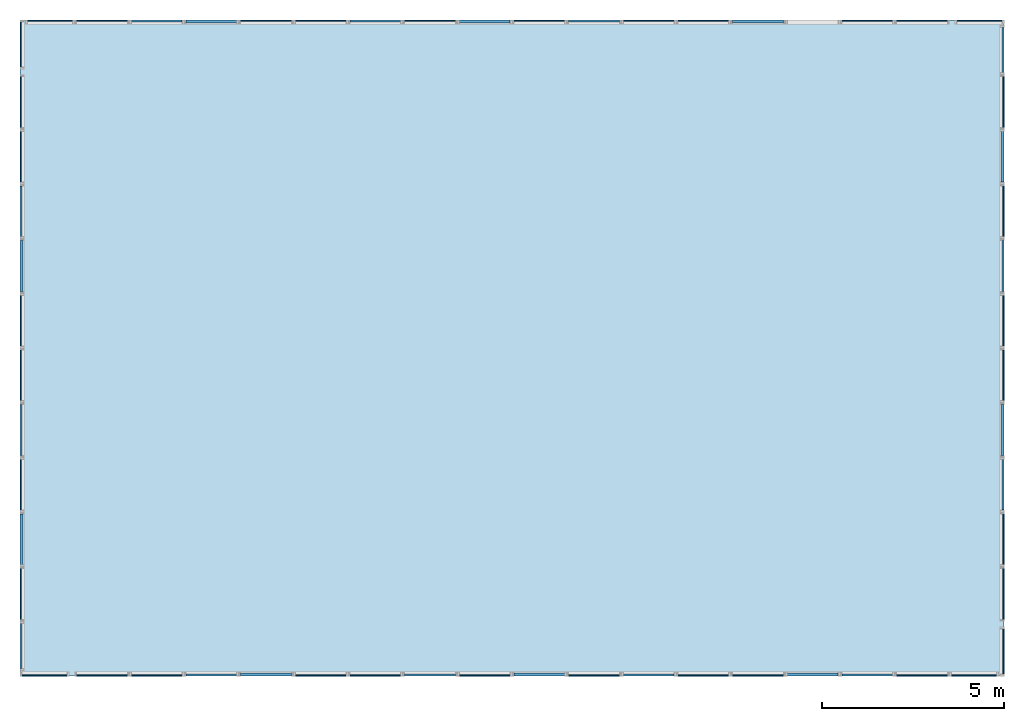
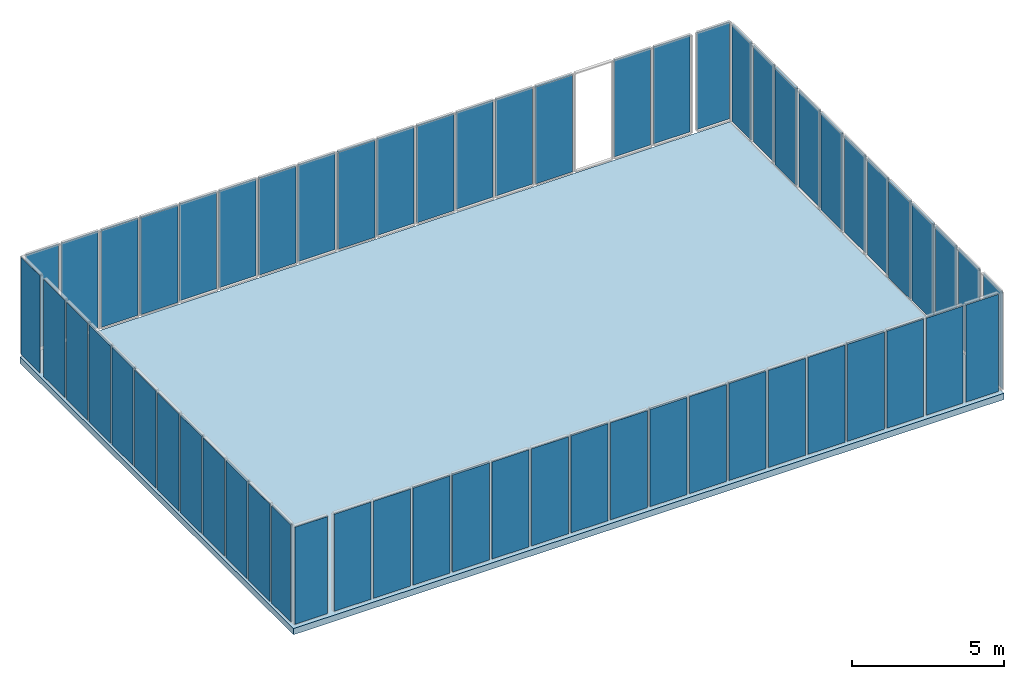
# One storey, part 4 of 4: 59 plates, 1 slab.
"""IFC4 building model written with IfcOpenShell, lengths in metres."""

import ifcopenshell
import ifcopenshell.guid

model = None  # the IFC model being written
_history = None  # IfcOwnerHistory: only IFC2X3 demands one
_inside = {}  # id of a spatial element -> (the spatial element, [elements in it])
_under = {}  # id of a project, library or spatial element -> (it, [spatial elements below it])
_declared = {}  # id of a project -> (the project, [libraries it declares])
_typed = {}  # id of a type object -> (the type object, [elements of that type])
_made_of = {}  # id of a material, layer set ... -> (it, [elements and type objects made of it])


def new_model(schema):
    """Start an empty IFC model of exactly this schema.

    Asked for "IFC4X3", IfcOpenShell would pick the latest addendum, in which some entities
    have other attributes; the version numbers below select the first issue.
    IFC2X3 requires an IfcOwnerHistory on every rooted entity: one is made here for all.
    """
    global model, _history
    if schema == "IFC4X3":
        model = ifcopenshell.file(schema_version=(4, 3, 0, 0))
    else:
        model = ifcopenshell.file(schema=schema)
    _inside.clear()
    _under.clear()
    _declared.clear()
    _typed.clear()
    _made_of.clear()
    _history = None
    if model.schema == "IFC2X3":
        org = make("IfcOrganization", Name="unknown")
        user = make(
            "IfcPersonAndOrganization",
            ThePerson=make("IfcPerson", FamilyName="unknown"),
            TheOrganization=org,
        )
        app = make(
            "IfcApplication",
            ApplicationDeveloper=org,
            Version="unknown",
            ApplicationFullName="unknown",
            ApplicationIdentifier="unknown",
        )
        _history = make(
            "IfcOwnerHistory",
            OwningUser=user,
            OwningApplication=app,
            ChangeAction="ADDED",
            CreationDate=0,
        )
    return model


def make(cls, **values):
    """One entity of the class cls with the attributes given. An attribute that is None is left unset."""
    return model.create_entity(
        cls, **{name: value for name, value in values.items() if value is not None}
    )


def rooted(cls, **values):
    """An entity with a GlobalId (a new one), such as an element, a storey or a relation."""
    return make(cls, GlobalId=ifcopenshell.guid.new(), OwnerHistory=_history, **values)


def si_unit(unit_type, name, prefix=None):
    """IfcSIUnit, for example si_unit("LENGTHUNIT", "METRE", prefix="MILLI")."""
    return make("IfcSIUnit", UnitType=unit_type, Prefix=prefix, Name=name)


def assignment(units):
    """IfcUnitAssignment: the units of a project."""
    return None if units is None else make("IfcUnitAssignment", Units=units)


def point(xyz):
    """IfcCartesianPoint."""
    return None if xyz is None else make("IfcCartesianPoint", Coordinates=xyz)


def direction(xyz):
    """IfcDirection."""
    return None if xyz is None else make("IfcDirection", DirectionRatios=xyz)


def frame(location, z_axis=None, x_axis=None):
    """IfcAxis2Placement3D, a coordinate frame: its origin and axes. An axis left out is left unset."""
    return make(
        "IfcAxis2Placement3D",
        Location=point(location),
        Axis=direction(z_axis),
        RefDirection=direction(x_axis),
    )


def origin_with_axes():
    """The frame at (0, 0, 0) with the z axis (0, 0, 1) and the x axis (1, 0, 0) written out."""
    return frame((0.0, 0.0, 0.0), z_axis=(0.0, 0.0, 1.0), x_axis=(1.0, 0.0, 0.0))


def place(relative_to, where):
    """IfcLocalPlacement: puts the frame where relative to a parent placement (None: the world)."""
    return make(
        "IfcLocalPlacement", PlacementRelTo=relative_to, RelativePlacement=where
    )


def context(
    kind, dimensions, precision=None, world=None, true_north=None, identifier=None
):
    """IfcGeometricRepresentationContext, for example the 3D "Model" context."""
    return make(
        "IfcGeometricRepresentationContext",
        ContextIdentifier=identifier,
        ContextType=kind,
        CoordinateSpaceDimension=dimensions,
        Precision=precision,
        WorldCoordinateSystem=world,
        TrueNorth=true_north,
    )


def subcontext(parent, identifier, kind, view, scale=None):
    """IfcGeometricRepresentationSubContext, for example "Body" below "Model"."""
    return make(
        "IfcGeometricRepresentationSubContext",
        ContextIdentifier=identifier,
        ContextType=kind,
        ParentContext=parent,
        TargetScale=scale,
        TargetView=view,
    )


def project(units=None, contexts=None):
    """IfcProject with its units and contexts."""
    return rooted(
        "IfcProject",
        Name="project",
        RepresentationContexts=contexts,
        UnitsInContext=assignment(units),
    )


def spatial(cls, under=None, at=None, **own):
    """A site, building, storey or space (cls), placed at a placement, below another one or the project."""
    s = rooted(cls, ObjectPlacement=at, **own)
    if under is not None:
        _under.setdefault(under.id(), (under, []))[1].append(s)
    return s


def point_list(points):
    """IfcCartesianPointList2D or 3D."""
    cls = (
        "IfcCartesianPointList2D" if len(points[0]) == 2 else "IfcCartesianPointList3D"
    )
    return make(cls, CoordList=points)


def indexed_curve(points, segments=None, self_intersect=None):
    """IfcIndexedPolyCurve: lines and arcs through numbered points (the first is 1)."""
    return make(
        "IfcIndexedPolyCurve",
        Points=point_list(points),
        Segments=segments,
        SelfIntersect=self_intersect,
    )


def outline(outer, holes=None, kind="AREA"):
    """IfcArbitraryClosedProfileDef: a profile drawn as a closed curve; with holes, ...WithVoids."""
    if holes is None:
        return make("IfcArbitraryClosedProfileDef", ProfileType=kind, OuterCurve=outer)
    return make(
        "IfcArbitraryProfileDefWithVoids",
        ProfileType=kind,
        OuterCurve=outer,
        InnerCurves=holes,
    )


def extrude(swept, where, along, depth):
    """IfcExtrudedAreaSolid: the profile swept, set in the frame where, extruded along a direction by depth."""
    return make(
        "IfcExtrudedAreaSolid",
        SweptArea=swept,
        Position=where,
        ExtrudedDirection=direction(along),
        Depth=depth,
    )


def shape(context_of_items, identifier, shape_type, items):
    """IfcShapeRepresentation: the items that make up one representation, for example the "Body"."""
    return make(
        "IfcShapeRepresentation",
        ContextOfItems=context_of_items,
        RepresentationIdentifier=identifier,
        RepresentationType=shape_type,
        Items=items,
    )


def material(Name=None, Category=None):
    """IfcMaterial."""
    return make("IfcMaterial", Name=Name, Category=Category)


def made_of(thing, what):
    """Note that an element or type object is made of a material, layer set ...; save() writes the relation."""
    if what is not None:
        _made_of.setdefault(what.id(), (what, []))[1].append(thing)
    return thing


def element(
    cls,
    number,
    at=None,
    inside=None,
    cuts=None,
    type_object=None,
    material=None,
    context=None,
    identifier="Body",
    shape_type=None,
    held_by="IfcProductDefinitionShape",
    body=None,
    shapes=None,
    **own,
):
    """One element of the class cls, such as IfcWall. Its Tag is "e" and its number.

    at: its placement. inside: the storey or other place that contains it. cuts: it is an
    opening in that element (IfcRelVoidsElement). A single representation is given by context,
    identifier, shape_type and body (its items); several are given by shapes. held_by: the class
    of the entity that holds the representations. save() writes the other relations.
    """
    e = rooted(cls, Tag="e%d" % number, ObjectPlacement=at, **own)
    if body is not None:
        shapes = [shape(context, identifier, shape_type, body)]
    if shapes is not None:
        e.Representation = make(held_by, Representations=shapes)
    if inside is not None:
        _inside.setdefault(inside.id(), (inside, []))[1].append(e)
    if cuts is not None:
        rooted(
            "IfcRelVoidsElement", RelatingBuildingElement=cuts, RelatedOpeningElement=e
        )
    if type_object is not None:
        _typed.setdefault(type_object.id(), (type_object, []))[1].append(e)
    return made_of(e, material)


def aggregate(whole, parts):
    """IfcRelAggregates: a whole, such as a stair, and the parts it consists of."""
    return rooted("IfcRelAggregates", RelatingObject=whole, RelatedObjects=parts)


def save(model, path):
    """Write the relations noted so far, then the file.

    IfcRelAggregates (storeys below a building ...), IfcRelContainedInSpatialStructure (elements
    in a storey), IfcRelDefinesByType, IfcRelAssociatesMaterial and IfcRelDeclares: one each for
    every whole, place, type object, material and project.
    """
    for whole, parts in _under.values():
        aggregate(whole, parts)
    for where, things in _inside.values():
        rooted(
            "IfcRelContainedInSpatialStructure",
            RelatedElements=things,
            RelatingStructure=where,
        )
    for kind, things in _typed.values():
        rooted("IfcRelDefinesByType", RelatedObjects=things, RelatingType=kind)
    for what, things in _made_of.values():
        rooted("IfcRelAssociatesMaterial", RelatedObjects=things, RelatingMaterial=what)
    for by, libraries in _declared.values():
        rooted("IfcRelDeclares", RelatingContext=by, RelatedDefinitions=libraries)
    model.write(path)


model = new_model("IFC4")

# Units and contexts
model_context = context("Model", 3, precision=1e-05, world=origin_with_axes())
body_context = subcontext(model_context, "Body", "Model", "MODEL_VIEW")
ifc_project = project(units=[si_unit("AREAUNIT", "SQUARE_METRE"), si_unit("VOLUMEUNIT", "CUBIC_METRE"), si_unit("LENGTHUNIT", "METRE")], contexts=[model_context])

# Site, building, storey
site = spatial("IfcSite", under=ifc_project, Name="Synthetic Site")
building = spatial("IfcBuilding", under=site, Name="Complex Tower")
storey_placement = place(None, frame((0.0, 0.0, 8.4), z_axis=(0.0, 0.0, 1.0), x_axis=(1.0, 0.0, 0.0)))
storey = spatial("IfcBuildingStorey", under=building, at=storey_placement, Name="L03", Elevation=8.4)

# Plates
ifc_material_1 = material(Name="Glass")
plate_1_placement = place(storey_placement, frame((0.05, 0.0, 0.15000000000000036), z_axis=(0.0, 0.0, 1.0), x_axis=(1.0, 0.0, 0.0)))
element("IfcPlate", 1, at=plate_1_placement, inside=storey, material=ifc_material_1, Name="CT-L03-S-001", PredefinedType="CURTAIN_PANEL", context=body_context, shape_type="SweptSolid", body=[
    extrude(outline(indexed_curve([(0.0, 0.0), (0.0, 0.028), (1.25, 0.028), (1.25, 0.0), (0.0, 0.0)], self_intersect=False)), origin_with_axes(), (0.0, 0.0, 1.0), 3.9000000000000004),
])
for number, where, z_axis, x_axis, name in (
    (2, (1.55, 0.0, 0.15000000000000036), (0.0, 0.0, 1.0), (1.0, 0.0, 0.0), "CT-L03-S-002"),
    (3, (3.05, 0.0, 0.15000000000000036), (0.0, 0.0, 1.0), (1.0, 0.0, 0.0), "CT-L03-S-003"),
):
    element("IfcPlate", number, at=place(storey_placement, frame(where, z_axis=z_axis, x_axis=x_axis)), inside=storey, material=ifc_material_1, Name=name, PredefinedType="CURTAIN_PANEL", context=body_context, shape_type="SweptSolid", body=[
        extrude(outline(indexed_curve([(0.0, 0.0), (0.0, 0.028), (1.4, 0.028), (1.4, 0.0), (0.0, 0.0)], self_intersect=False)), origin_with_axes(), (0.0, 0.0, 1.0), 3.9000000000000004),
    ])
ifc_material_2 = material(Name="Stone")
plate_2_placement = place(storey_placement, frame((4.55, 0.0, 0.15000000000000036), z_axis=(0.0, 0.0, 1.0), x_axis=(1.0, 0.0, 0.0)))
element("IfcPlate", 4, at=plate_2_placement, inside=storey, material=ifc_material_2, Name="CT-L03-S-004", PredefinedType="SHEET", context=body_context, shape_type="SweptSolid", body=[
    extrude(outline(indexed_curve([(0.0, 0.0), (0.0, 0.06), (1.4, 0.06), (1.4, 0.0), (0.0, 0.0)], self_intersect=False)), origin_with_axes(), (0.0, 0.0, 1.0), 3.9000000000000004),
])
ifc_material_3 = material(Name="Aluminium")
plate_3_placement = place(storey_placement, frame((6.05, 0.0, 0.15000000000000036), z_axis=(0.0, 0.0, 1.0), x_axis=(1.0, 0.0, 0.0)))
element("IfcPlate", 5, at=plate_3_placement, inside=storey, material=ifc_material_3, Name="CT-L03-S-005", PredefinedType="SHEET", context=body_context, shape_type="SweptSolid", body=[
    extrude(outline(indexed_curve([(0.0, 0.0), (0.0, 0.08), (1.4, 0.08), (1.4, 0.0), (0.0, 0.0)], self_intersect=False)), origin_with_axes(), (0.0, 0.0, 1.0), 3.9000000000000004),
])
for number, where, z_axis, x_axis, name in (
    (6, (7.55, 0.0, 0.15000000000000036), (0.0, 0.0, 1.0), (1.0, 0.0, 0.0), "CT-L03-S-006"),
    (7, (9.05, 0.0, 0.15000000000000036), (0.0, 0.0, 1.0), (1.0, 0.0, 0.0), "CT-L03-S-007"),
):
    element("IfcPlate", number, at=place(storey_placement, frame(where, z_axis=z_axis, x_axis=x_axis)), inside=storey, material=ifc_material_1, Name=name, PredefinedType="CURTAIN_PANEL", context=body_context, shape_type="SweptSolid", body=[
        extrude(outline(indexed_curve([(0.0, 0.0), (0.0, 0.028), (1.4, 0.028), (1.4, 0.0), (0.0, 0.0)], self_intersect=False)), origin_with_axes(), (0.0, 0.0, 1.0), 3.9000000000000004),
    ])
plate_4_placement = place(storey_placement, frame((10.55, 0.0, 0.15000000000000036), z_axis=(0.0, 0.0, 1.0), x_axis=(1.0, 0.0, 0.0)))
element("IfcPlate", 8, at=plate_4_placement, inside=storey, material=ifc_material_2, Name="CT-L03-S-008", PredefinedType="SHEET", context=body_context, shape_type="SweptSolid", body=[
    extrude(outline(indexed_curve([(0.0, 0.0), (0.0, 0.06), (1.4, 0.06), (1.4, 0.0), (0.0, 0.0)], self_intersect=False)), origin_with_axes(), (0.0, 0.0, 1.0), 3.9000000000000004),
])
plate_5_placement = place(storey_placement, frame((12.05, 0.0, 0.15000000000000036), z_axis=(0.0, 0.0, 1.0), x_axis=(1.0, 0.0, 0.0)))
element("IfcPlate", 9, at=plate_5_placement, inside=storey, material=ifc_material_1, Name="CT-L03-S-009", PredefinedType="CURTAIN_PANEL", context=body_context, shape_type="SweptSolid", body=[
    extrude(outline(indexed_curve([(0.0, 0.0), (0.0, 0.028), (1.4, 0.028), (1.4, 0.0), (0.0, 0.0)], self_intersect=False)), origin_with_axes(), (0.0, 0.0, 1.0), 3.9000000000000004),
])
plate_6_placement = place(storey_placement, frame((13.55, 0.0, 0.15000000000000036), z_axis=(0.0, 0.0, 1.0), x_axis=(1.0, 0.0, 0.0)))
element("IfcPlate", 10, at=plate_6_placement, inside=storey, material=ifc_material_3, Name="CT-L03-S-010", PredefinedType="SHEET", context=body_context, shape_type="SweptSolid", body=[
    extrude(outline(indexed_curve([(0.0, 0.0), (0.0, 0.08), (1.4, 0.08), (1.4, 0.0), (0.0, 0.0)], self_intersect=False)), origin_with_axes(), (0.0, 0.0, 1.0), 3.9000000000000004),
])
plate_7_placement = place(storey_placement, frame((15.05, 0.0, 0.15000000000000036), z_axis=(0.0, 0.0, 1.0), x_axis=(1.0, 0.0, 0.0)))
element("IfcPlate", 11, at=plate_7_placement, inside=storey, material=ifc_material_1, Name="CT-L03-S-011", PredefinedType="CURTAIN_PANEL", context=body_context, shape_type="SweptSolid", body=[
    extrude(outline(indexed_curve([(0.0, 0.0), (0.0, 0.028), (1.4, 0.028), (1.4, 0.0), (0.0, 0.0)], self_intersect=False)), origin_with_axes(), (0.0, 0.0, 1.0), 3.9000000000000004),
])
plate_8_placement = place(storey_placement, frame((16.55, 0.0, 0.15000000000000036), z_axis=(0.0, 0.0, 1.0), x_axis=(1.0, 0.0, 0.0)))
element("IfcPlate", 12, at=plate_8_placement, inside=storey, material=ifc_material_2, Name="CT-L03-S-012", PredefinedType="SHEET", context=body_context, shape_type="SweptSolid", body=[
    extrude(outline(indexed_curve([(0.0, 0.0), (0.0, 0.06), (1.4, 0.06), (1.4, 0.0), (0.0, 0.0)], self_intersect=False)), origin_with_axes(), (0.0, 0.0, 1.0), 3.9000000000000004),
])
for number, where, z_axis, x_axis, name in (
    (13, (18.05, 0.0, 0.15000000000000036), (0.0, 0.0, 1.0), (1.0, 0.0, 0.0), "CT-L03-S-013"),
    (14, (19.55, 0.0, 0.15000000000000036), (0.0, 0.0, 1.0), (1.0, 0.0, 0.0), "CT-L03-S-014"),
):
    element("IfcPlate", number, at=place(storey_placement, frame(where, z_axis=z_axis, x_axis=x_axis)), inside=storey, material=ifc_material_1, Name=name, PredefinedType="CURTAIN_PANEL", context=body_context, shape_type="SweptSolid", body=[
        extrude(outline(indexed_curve([(0.0, 0.0), (0.0, 0.028), (1.4, 0.028), (1.4, 0.0), (0.0, 0.0)], self_intersect=False)), origin_with_axes(), (0.0, 0.0, 1.0), 3.9000000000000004),
    ])
plate_9_placement = place(storey_placement, frame((21.05, 0.0, 0.15000000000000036), z_axis=(0.0, 0.0, 1.0), x_axis=(1.0, 0.0, 0.0)))
element("IfcPlate", 15, at=plate_9_placement, inside=storey, material=ifc_material_3, Name="CT-L03-S-015", PredefinedType="SHEET", context=body_context, shape_type="SweptSolid", body=[
    extrude(outline(indexed_curve([(0.0, 0.0), (0.0, 0.08), (1.4, 0.08), (1.4, 0.0), (0.0, 0.0)], self_intersect=False)), origin_with_axes(), (0.0, 0.0, 1.0), 3.9000000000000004),
])
plate_10_placement = place(storey_placement, frame((22.55, 0.0, 0.15000000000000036), z_axis=(0.0, 0.0, 1.0), x_axis=(1.0, 0.0, 0.0)))
element("IfcPlate", 16, at=plate_10_placement, inside=storey, material=ifc_material_2, Name="CT-L03-S-016", PredefinedType="SHEET", context=body_context, shape_type="SweptSolid", body=[
    extrude(outline(indexed_curve([(0.0, 0.0), (0.0, 0.06), (1.4, 0.06), (1.4, 0.0), (0.0, 0.0)], self_intersect=False)), origin_with_axes(), (0.0, 0.0, 1.0), 3.9000000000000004),
])
plate_11_placement = place(storey_placement, frame((24.05, 0.0, 0.15000000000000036), z_axis=(0.0, 0.0, 1.0), x_axis=(1.0, 0.0, 0.0)))
element("IfcPlate", 17, at=plate_11_placement, inside=storey, material=ifc_material_1, Name="CT-L03-S-017", PredefinedType="CURTAIN_PANEL", context=body_context, shape_type="SweptSolid", body=[
    extrude(outline(indexed_curve([(0.0, 0.0), (0.0, 0.028), (1.4, 0.028), (1.4, 0.0), (0.0, 0.0)], self_intersect=False)), origin_with_axes(), (0.0, 0.0, 1.0), 3.9000000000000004),
])
for number, where, z_axis, x_axis, name in (
    (18, (25.55, 0.0, 0.15000000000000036), (0.0, 0.0, 1.0), (1.0, 0.0, 0.0), "CT-L03-S-018"),
    (19, (27.0, 0.05, 0.15000000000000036), (0.0, 0.0, 1.0), (6.123233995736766e-17, 1.0, 0.0), "CT-L03-E-001"),
):
    element("IfcPlate", number, at=place(storey_placement, frame(where, z_axis=z_axis, x_axis=x_axis)), inside=storey, material=ifc_material_1, Name=name, PredefinedType="CURTAIN_PANEL", context=body_context, shape_type="SweptSolid", body=[
        extrude(outline(indexed_curve([(0.0, 0.0), (0.0, 0.028), (1.25, 0.028), (1.25, 0.0), (0.0, 0.0)], self_intersect=False)), origin_with_axes(), (0.0, 0.0, 1.0), 3.9000000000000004),
    ])
for number, where, z_axis, x_axis, name in (
    (20, (27.0, 1.55, 0.15000000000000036), (0.0, 0.0, 1.0), (6.123233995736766e-17, 1.0, 0.0), "CT-L03-E-002"),
    (21, (27.0, 3.05, 0.15000000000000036), (0.0, 0.0, 1.0), (6.123233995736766e-17, 1.0, 0.0), "CT-L03-E-003"),
):
    element("IfcPlate", number, at=place(storey_placement, frame(where, z_axis=z_axis, x_axis=x_axis)), inside=storey, material=ifc_material_1, Name=name, PredefinedType="CURTAIN_PANEL", context=body_context, shape_type="SweptSolid", body=[
        extrude(outline(indexed_curve([(0.0, 0.0), (0.0, 0.028), (1.4, 0.028), (1.4, 0.0), (0.0, 0.0)], self_intersect=False)), origin_with_axes(), (0.0, 0.0, 1.0), 3.9000000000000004),
    ])
plate_12_placement = place(storey_placement, frame((27.0, 4.55, 0.15000000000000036), z_axis=(0.0, 0.0, 1.0), x_axis=(6.123233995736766e-17, 1.0, 0.0)))
element("IfcPlate", 22, at=plate_12_placement, inside=storey, material=ifc_material_2, Name="CT-L03-E-004", PredefinedType="SHEET", context=body_context, shape_type="SweptSolid", body=[
    extrude(outline(indexed_curve([(0.0, 0.0), (0.0, 0.06), (1.4, 0.06), (1.4, 0.0), (0.0, 0.0)], self_intersect=False)), origin_with_axes(), (0.0, 0.0, 1.0), 3.9000000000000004),
])
plate_13_placement = place(storey_placement, frame((27.0, 6.05, 0.15000000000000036), z_axis=(0.0, 0.0, 1.0), x_axis=(6.123233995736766e-17, 1.0, 0.0)))
element("IfcPlate", 23, at=plate_13_placement, inside=storey, material=ifc_material_3, Name="CT-L03-E-005", PredefinedType="SHEET", context=body_context, shape_type="SweptSolid", body=[
    extrude(outline(indexed_curve([(0.0, 0.0), (0.0, 0.08), (1.4, 0.08), (1.4, 0.0), (0.0, 0.0)], self_intersect=False)), origin_with_axes(), (0.0, 0.0, 1.0), 3.9000000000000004),
])
for number, where, z_axis, x_axis, name in (
    (24, (27.0, 7.55, 0.15000000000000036), (0.0, 0.0, 1.0), (6.123233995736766e-17, 1.0, 0.0), "CT-L03-E-006"),
    (25, (27.0, 9.05, 0.15000000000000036), (0.0, 0.0, 1.0), (6.123233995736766e-17, 1.0, 0.0), "CT-L03-E-007"),
):
    element("IfcPlate", number, at=place(storey_placement, frame(where, z_axis=z_axis, x_axis=x_axis)), inside=storey, material=ifc_material_1, Name=name, PredefinedType="CURTAIN_PANEL", context=body_context, shape_type="SweptSolid", body=[
        extrude(outline(indexed_curve([(0.0, 0.0), (0.0, 0.028), (1.4, 0.028), (1.4, 0.0), (0.0, 0.0)], self_intersect=False)), origin_with_axes(), (0.0, 0.0, 1.0), 3.9000000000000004),
    ])
plate_14_placement = place(storey_placement, frame((27.0, 10.55, 0.15000000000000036), z_axis=(0.0, 0.0, 1.0), x_axis=(6.123233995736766e-17, 1.0, 0.0)))
element("IfcPlate", 26, at=plate_14_placement, inside=storey, material=ifc_material_2, Name="CT-L03-E-008", PredefinedType="SHEET", context=body_context, shape_type="SweptSolid", body=[
    extrude(outline(indexed_curve([(0.0, 0.0), (0.0, 0.06), (1.4, 0.06), (1.4, 0.0), (0.0, 0.0)], self_intersect=False)), origin_with_axes(), (0.0, 0.0, 1.0), 3.9000000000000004),
])
plate_15_placement = place(storey_placement, frame((27.0, 12.05, 0.15000000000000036), z_axis=(0.0, 0.0, 1.0), x_axis=(6.123233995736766e-17, 1.0, 0.0)))
element("IfcPlate", 27, at=plate_15_placement, inside=storey, material=ifc_material_1, Name="CT-L03-E-009", PredefinedType="CURTAIN_PANEL", context=body_context, shape_type="SweptSolid", body=[
    extrude(outline(indexed_curve([(0.0, 0.0), (0.0, 0.028), (1.4, 0.028), (1.4, 0.0), (0.0, 0.0)], self_intersect=False)), origin_with_axes(), (0.0, 0.0, 1.0), 3.9000000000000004),
])
plate_16_placement = place(storey_placement, frame((27.0, 13.55, 0.15000000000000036), z_axis=(0.0, 0.0, 1.0), x_axis=(6.123233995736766e-17, 1.0, 0.0)))
element("IfcPlate", 28, at=plate_16_placement, inside=storey, material=ifc_material_3, Name="CT-L03-E-010", PredefinedType="SHEET", context=body_context, shape_type="SweptSolid", body=[
    extrude(outline(indexed_curve([(0.0, 0.0), (0.0, 0.08), (1.4, 0.08), (1.4, 0.0), (0.0, 0.0)], self_intersect=False)), origin_with_axes(), (0.0, 0.0, 1.0), 3.9000000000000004),
])
plate_17_placement = place(storey_placement, frame((27.0, 15.05, 0.15000000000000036), z_axis=(0.0, 0.0, 1.0), x_axis=(6.123233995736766e-17, 1.0, 0.0)))
element("IfcPlate", 29, at=plate_17_placement, inside=storey, material=ifc_material_1, Name="CT-L03-E-011", PredefinedType="CURTAIN_PANEL", context=body_context, shape_type="SweptSolid", body=[
    extrude(outline(indexed_curve([(0.0, 0.0), (0.0, 0.028), (1.4, 0.028), (1.4, 0.0), (0.0, 0.0)], self_intersect=False)), origin_with_axes(), (0.0, 0.0, 1.0), 3.9000000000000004),
])
plate_18_placement = place(storey_placement, frame((27.0, 16.55, 0.15000000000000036), z_axis=(0.0, 0.0, 1.0), x_axis=(6.123233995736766e-17, 1.0, 0.0)))
element("IfcPlate", 30, at=plate_18_placement, inside=storey, material=ifc_material_2, Name="CT-L03-E-012", PredefinedType="SHEET", context=body_context, shape_type="SweptSolid", body=[
    extrude(outline(indexed_curve([(0.0, 0.0), (0.0, 0.06), (1.25, 0.06), (1.25, 0.0), (0.0, 0.0)], self_intersect=False)), origin_with_axes(), (0.0, 0.0, 1.0), 3.9000000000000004),
])
plate_19_placement = place(storey_placement, frame((26.95, 18.0, 0.15000000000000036), z_axis=(0.0, 0.0, 1.0), x_axis=(-1.0, 1.2246467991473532e-16, 0.0)))
element("IfcPlate", 31, at=plate_19_placement, inside=storey, material=ifc_material_1, Name="CT-L03-N-001", PredefinedType="CURTAIN_PANEL", context=body_context, shape_type="SweptSolid", body=[
    extrude(outline(indexed_curve([(0.0, 0.0), (0.0, 0.028), (1.25, 0.028), (1.25, 0.0), (0.0, 0.0)], self_intersect=False)), origin_with_axes(), (0.0, 0.0, 1.0), 3.9000000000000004),
])
for number, where, z_axis, x_axis, name in (
    (32, (25.45, 18.0, 0.15000000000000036), (0.0, 0.0, 1.0), (-1.0, 1.2246467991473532e-16, 0.0), "CT-L03-N-002"),
    (33, (23.95, 18.0, 0.15000000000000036), (0.0, 0.0, 1.0), (-1.0, 1.2246467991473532e-16, 0.0), "CT-L03-N-003"),
):
    element("IfcPlate", number, at=place(storey_placement, frame(where, z_axis=z_axis, x_axis=x_axis)), inside=storey, material=ifc_material_1, Name=name, PredefinedType="CURTAIN_PANEL", context=body_context, shape_type="SweptSolid", body=[
        extrude(outline(indexed_curve([(0.0, 0.0), (0.0, 0.028), (1.4, 0.028), (1.4, 0.0), (0.0, 0.0)], self_intersect=False)), origin_with_axes(), (0.0, 0.0, 1.0), 3.9000000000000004),
    ])
plate_20_placement = place(storey_placement, frame((20.95, 18.0, 0.15000000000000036), z_axis=(0.0, 0.0, 1.0), x_axis=(-1.0, 1.2246467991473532e-16, 0.0)))
element("IfcPlate", 34, at=plate_20_placement, inside=storey, material=ifc_material_3, Name="CT-L03-N-005", PredefinedType="SHEET", context=body_context, shape_type="SweptSolid", body=[
    extrude(outline(indexed_curve([(0.0, 0.0), (0.0, 0.08), (1.4, 0.08), (1.4, 0.0), (0.0, 0.0)], self_intersect=False)), origin_with_axes(), (0.0, 0.0, 1.0), 3.9000000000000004),
])
for number, where, z_axis, x_axis, name in (
    (35, (19.45, 18.0, 0.15000000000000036), (0.0, 0.0, 1.0), (-1.0, 1.2246467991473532e-16, 0.0), "CT-L03-N-006"),
    (36, (17.95, 18.0, 0.15000000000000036), (0.0, 0.0, 1.0), (-1.0, 1.2246467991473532e-16, 0.0), "CT-L03-N-007"),
):
    element("IfcPlate", number, at=place(storey_placement, frame(where, z_axis=z_axis, x_axis=x_axis)), inside=storey, material=ifc_material_1, Name=name, PredefinedType="CURTAIN_PANEL", context=body_context, shape_type="SweptSolid", body=[
        extrude(outline(indexed_curve([(0.0, 0.0), (0.0, 0.028), (1.4, 0.028), (1.4, 0.0), (0.0, 0.0)], self_intersect=False)), origin_with_axes(), (0.0, 0.0, 1.0), 3.9000000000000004),
    ])
plate_21_placement = place(storey_placement, frame((16.45, 18.0, 0.15000000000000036), z_axis=(0.0, 0.0, 1.0), x_axis=(-1.0, 1.2246467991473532e-16, 0.0)))
element("IfcPlate", 37, at=plate_21_placement, inside=storey, material=ifc_material_2, Name="CT-L03-N-008", PredefinedType="SHEET", context=body_context, shape_type="SweptSolid", body=[
    extrude(outline(indexed_curve([(0.0, 0.0), (0.0, 0.06), (1.4, 0.06), (1.4, 0.0), (0.0, 0.0)], self_intersect=False)), origin_with_axes(), (0.0, 0.0, 1.0), 3.9000000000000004),
])
plate_22_placement = place(storey_placement, frame((14.95, 18.0, 0.15000000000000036), z_axis=(0.0, 0.0, 1.0), x_axis=(-1.0, 1.2246467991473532e-16, 0.0)))
element("IfcPlate", 38, at=plate_22_placement, inside=storey, material=ifc_material_1, Name="CT-L03-N-009", PredefinedType="CURTAIN_PANEL", context=body_context, shape_type="SweptSolid", body=[
    extrude(outline(indexed_curve([(0.0, 0.0), (0.0, 0.028), (1.4, 0.028), (1.4, 0.0), (0.0, 0.0)], self_intersect=False)), origin_with_axes(), (0.0, 0.0, 1.0), 3.9000000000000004),
])
plate_23_placement = place(storey_placement, frame((13.45, 18.0, 0.15000000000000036), z_axis=(0.0, 0.0, 1.0), x_axis=(-1.0, 1.2246467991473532e-16, 0.0)))
element("IfcPlate", 39, at=plate_23_placement, inside=storey, material=ifc_material_3, Name="CT-L03-N-010", PredefinedType="SHEET", context=body_context, shape_type="SweptSolid", body=[
    extrude(outline(indexed_curve([(0.0, 0.0), (0.0, 0.08), (1.4, 0.08), (1.4, 0.0), (0.0, 0.0)], self_intersect=False)), origin_with_axes(), (0.0, 0.0, 1.0), 3.9000000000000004),
])
plate_24_placement = place(storey_placement, frame((11.95, 18.000000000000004, 0.15000000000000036), z_axis=(0.0, 0.0, 1.0), x_axis=(-1.0, 1.2246467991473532e-16, 0.0)))
element("IfcPlate", 40, at=plate_24_placement, inside=storey, material=ifc_material_1, Name="CT-L03-N-011", PredefinedType="CURTAIN_PANEL", context=body_context, shape_type="SweptSolid", body=[
    extrude(outline(indexed_curve([(0.0, 0.0), (0.0, 0.028), (1.4, 0.028), (1.4, 0.0), (0.0, 0.0)], self_intersect=False)), origin_with_axes(), (0.0, 0.0, 1.0), 3.9000000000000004),
])
plate_25_placement = place(storey_placement, frame((10.45, 18.000000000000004, 0.15000000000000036), z_axis=(0.0, 0.0, 1.0), x_axis=(-1.0, 1.2246467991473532e-16, 0.0)))
element("IfcPlate", 41, at=plate_25_placement, inside=storey, material=ifc_material_2, Name="CT-L03-N-012", PredefinedType="SHEET", context=body_context, shape_type="SweptSolid", body=[
    extrude(outline(indexed_curve([(0.0, 0.0), (0.0, 0.06), (1.4, 0.06), (1.4, 0.0), (0.0, 0.0)], self_intersect=False)), origin_with_axes(), (0.0, 0.0, 1.0), 3.9000000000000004),
])
for number, where, z_axis, x_axis, name in (
    (42, (8.95, 18.000000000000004, 0.15000000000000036), (0.0, 0.0, 1.0), (-1.0, 1.2246467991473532e-16, 0.0), "CT-L03-N-013"),
    (43, (7.449999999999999, 18.000000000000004, 0.15000000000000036), (0.0, 0.0, 1.0), (-1.0, 1.2246467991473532e-16, 0.0), "CT-L03-N-014"),
):
    element("IfcPlate", number, at=place(storey_placement, frame(where, z_axis=z_axis, x_axis=x_axis)), inside=storey, material=ifc_material_1, Name=name, PredefinedType="CURTAIN_PANEL", context=body_context, shape_type="SweptSolid", body=[
        extrude(outline(indexed_curve([(0.0, 0.0), (0.0, 0.028), (1.4, 0.028), (1.4, 0.0), (0.0, 0.0)], self_intersect=False)), origin_with_axes(), (0.0, 0.0, 1.0), 3.9000000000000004),
    ])
plate_26_placement = place(storey_placement, frame((5.949999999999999, 18.000000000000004, 0.15000000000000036), z_axis=(0.0, 0.0, 1.0), x_axis=(-1.0, 1.2246467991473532e-16, 0.0)))
element("IfcPlate", 44, at=plate_26_placement, inside=storey, material=ifc_material_3, Name="CT-L03-N-015", PredefinedType="SHEET", context=body_context, shape_type="SweptSolid", body=[
    extrude(outline(indexed_curve([(0.0, 0.0), (0.0, 0.08), (1.4, 0.08), (1.4, 0.0), (0.0, 0.0)], self_intersect=False)), origin_with_axes(), (0.0, 0.0, 1.0), 3.9000000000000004),
])
plate_27_placement = place(storey_placement, frame((4.449999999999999, 18.000000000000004, 0.15000000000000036), z_axis=(0.0, 0.0, 1.0), x_axis=(-1.0, 1.2246467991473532e-16, 0.0)))
element("IfcPlate", 45, at=plate_27_placement, inside=storey, material=ifc_material_2, Name="CT-L03-N-016", PredefinedType="SHEET", context=body_context, shape_type="SweptSolid", body=[
    extrude(outline(indexed_curve([(0.0, 0.0), (0.0, 0.06), (1.4, 0.06), (1.4, 0.0), (0.0, 0.0)], self_intersect=False)), origin_with_axes(), (0.0, 0.0, 1.0), 3.9000000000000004),
])
plate_28_placement = place(storey_placement, frame((2.9499999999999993, 18.000000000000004, 0.15000000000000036), z_axis=(0.0, 0.0, 1.0), x_axis=(-1.0, 1.2246467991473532e-16, 0.0)))
element("IfcPlate", 46, at=plate_28_placement, inside=storey, material=ifc_material_1, Name="CT-L03-N-017", PredefinedType="CURTAIN_PANEL", context=body_context, shape_type="SweptSolid", body=[
    extrude(outline(indexed_curve([(0.0, 0.0), (0.0, 0.028), (1.4, 0.028), (1.4, 0.0), (0.0, 0.0)], self_intersect=False)), origin_with_axes(), (0.0, 0.0, 1.0), 3.9000000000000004),
])
for number, where, z_axis, x_axis, name in (
    (47, (1.4499999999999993, 18.000000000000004, 0.15000000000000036), (0.0, 0.0, 1.0), (-1.0, 1.2246467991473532e-16, 0.0), "CT-L03-N-018"),
    (48, (-9.184850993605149e-18, 17.95, 0.15000000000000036), (0.0, 0.0, 1.0), (-1.8369701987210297e-16, -1.0, 0.0), "CT-L03-W-001"),
):
    element("IfcPlate", number, at=place(storey_placement, frame(where, z_axis=z_axis, x_axis=x_axis)), inside=storey, material=ifc_material_1, Name=name, PredefinedType="CURTAIN_PANEL", context=body_context, shape_type="SweptSolid", body=[
        extrude(outline(indexed_curve([(0.0, 0.0), (0.0, 0.028), (1.25, 0.028), (1.25, 0.0), (0.0, 0.0)], self_intersect=False)), origin_with_axes(), (0.0, 0.0, 1.0), 3.9000000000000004),
    ])
for number, where, z_axis, x_axis, name in (
    (49, (-2.847303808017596e-16, 16.45, 0.15000000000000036), (0.0, 0.0, 1.0), (-1.8369701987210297e-16, -1.0, 0.0), "CT-L03-W-002"),
    (50, (-5.60275910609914e-16, 14.95, 0.15000000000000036), (0.0, 0.0, 1.0), (-1.8369701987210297e-16, -1.0, 0.0), "CT-L03-W-003"),
):
    element("IfcPlate", number, at=place(storey_placement, frame(where, z_axis=z_axis, x_axis=x_axis)), inside=storey, material=ifc_material_1, Name=name, PredefinedType="CURTAIN_PANEL", context=body_context, shape_type="SweptSolid", body=[
        extrude(outline(indexed_curve([(0.0, 0.0), (0.0, 0.028), (1.4, 0.028), (1.4, 0.0), (0.0, 0.0)], self_intersect=False)), origin_with_axes(), (0.0, 0.0, 1.0), 3.9000000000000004),
    ])
plate_29_placement = place(storey_placement, frame((-8.358214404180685e-16, 13.45, 0.15000000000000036), z_axis=(0.0, 0.0, 1.0), x_axis=(-1.8369701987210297e-16, -1.0, 0.0)))
element("IfcPlate", 51, at=plate_29_placement, inside=storey, material=ifc_material_2, Name="CT-L03-W-004", PredefinedType="SHEET", context=body_context, shape_type="SweptSolid", body=[
    extrude(outline(indexed_curve([(0.0, 0.0), (0.0, 0.06), (1.4, 0.06), (1.4, 0.0), (0.0, 0.0)], self_intersect=False)), origin_with_axes(), (0.0, 0.0, 1.0), 3.9000000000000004),
])
plate_30_placement = place(storey_placement, frame((-1.111366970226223e-15, 11.95, 0.15000000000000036), z_axis=(0.0, 0.0, 1.0), x_axis=(-1.8369701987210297e-16, -1.0, 0.0)))
element("IfcPlate", 52, at=plate_30_placement, inside=storey, material=ifc_material_3, Name="CT-L03-W-005", PredefinedType="SHEET", context=body_context, shape_type="SweptSolid", body=[
    extrude(outline(indexed_curve([(0.0, 0.0), (0.0, 0.08), (1.4, 0.08), (1.4, 0.0), (0.0, 0.0)], self_intersect=False)), origin_with_axes(), (0.0, 0.0, 1.0), 3.9000000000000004),
])
for number, where, z_axis, x_axis, name in (
    (53, (-1.3869125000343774e-15, 10.45, 0.15000000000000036), (0.0, 0.0, 1.0), (-1.8369701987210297e-16, -1.0, 0.0), "CT-L03-W-006"),
    (54, (-1.662458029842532e-15, 8.95, 0.15000000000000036), (0.0, 0.0, 1.0), (-1.8369701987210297e-16, -1.0, 0.0), "CT-L03-W-007"),
):
    element("IfcPlate", number, at=place(storey_placement, frame(where, z_axis=z_axis, x_axis=x_axis)), inside=storey, material=ifc_material_1, Name=name, PredefinedType="CURTAIN_PANEL", context=body_context, shape_type="SweptSolid", body=[
        extrude(outline(indexed_curve([(0.0, 0.0), (0.0, 0.028), (1.4, 0.028), (1.4, 0.0), (0.0, 0.0)], self_intersect=False)), origin_with_axes(), (0.0, 0.0, 1.0), 3.9000000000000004),
    ])
plate_31_placement = place(storey_placement, frame((-1.9380035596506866e-15, 7.449999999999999, 0.15000000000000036), z_axis=(0.0, 0.0, 1.0), x_axis=(-1.8369701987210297e-16, -1.0, 0.0)))
element("IfcPlate", 55, at=plate_31_placement, inside=storey, material=ifc_material_2, Name="CT-L03-W-008", PredefinedType="SHEET", context=body_context, shape_type="SweptSolid", body=[
    extrude(outline(indexed_curve([(0.0, 0.0), (0.0, 0.06), (1.4, 0.06), (1.4, 0.0), (0.0, 0.0)], self_intersect=False)), origin_with_axes(), (0.0, 0.0, 1.0), 3.9000000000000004),
])
plate_32_placement = place(storey_placement, frame((-2.213549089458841e-15, 5.949999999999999, 0.15000000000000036), z_axis=(0.0, 0.0, 1.0), x_axis=(-1.8369701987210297e-16, -1.0, 0.0)))
element("IfcPlate", 56, at=plate_32_placement, inside=storey, material=ifc_material_1, Name="CT-L03-W-009", PredefinedType="CURTAIN_PANEL", context=body_context, shape_type="SweptSolid", body=[
    extrude(outline(indexed_curve([(0.0, 0.0), (0.0, 0.028), (1.4, 0.028), (1.4, 0.0), (0.0, 0.0)], self_intersect=False)), origin_with_axes(), (0.0, 0.0, 1.0), 3.9000000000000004),
])
plate_33_placement = place(storey_placement, frame((-2.4890946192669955e-15, 4.449999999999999, 0.15000000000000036), z_axis=(0.0, 0.0, 1.0), x_axis=(-1.8369701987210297e-16, -1.0, 0.0)))
element("IfcPlate", 57, at=plate_33_placement, inside=storey, material=ifc_material_3, Name="CT-L03-W-010", PredefinedType="SHEET", context=body_context, shape_type="SweptSolid", body=[
    extrude(outline(indexed_curve([(0.0, 0.0), (0.0, 0.08), (1.4, 0.08), (1.4, 0.0), (0.0, 0.0)], self_intersect=False)), origin_with_axes(), (0.0, 0.0, 1.0), 3.9000000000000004),
])
plate_34_placement = place(storey_placement, frame((-2.76464014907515e-15, 2.9499999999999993, 0.15000000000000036), z_axis=(0.0, 0.0, 1.0), x_axis=(-1.8369701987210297e-16, -1.0, 0.0)))
element("IfcPlate", 58, at=plate_34_placement, inside=storey, material=ifc_material_1, Name="CT-L03-W-011", PredefinedType="CURTAIN_PANEL", context=body_context, shape_type="SweptSolid", body=[
    extrude(outline(indexed_curve([(0.0, 0.0), (0.0, 0.028), (1.4, 0.028), (1.4, 0.0), (0.0, 0.0)], self_intersect=False)), origin_with_axes(), (0.0, 0.0, 1.0), 3.9000000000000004),
])
plate_35_placement = place(storey_placement, frame((-3.040185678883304e-15, 1.4499999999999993, 0.15000000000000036), z_axis=(0.0, 0.0, 1.0), x_axis=(-1.8369701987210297e-16, -1.0, 0.0)))
element("IfcPlate", 59, at=plate_35_placement, inside=storey, material=ifc_material_2, Name="CT-L03-W-012", PredefinedType="SHEET", context=body_context, shape_type="SweptSolid", body=[
    extrude(outline(indexed_curve([(0.0, 0.0), (0.0, 0.06), (1.25, 0.06), (1.25, 0.0), (0.0, 0.0)], self_intersect=False)), origin_with_axes(), (0.0, 0.0, 1.0), 3.9000000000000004),
])

# Slab
ifc_material_4 = material(Name="Concrete")
slab_placement = place(storey_placement, frame((0.0, 0.0, -0.25), z_axis=(0.0, 0.0, 1.0), x_axis=(1.0, 0.0, 0.0)))
element("IfcSlab", 60, at=slab_placement, inside=storey, material=ifc_material_4, Name="CT-SLAB-03", PredefinedType="FLOOR", context=body_context, shape_type="SweptSolid", body=[
    extrude(outline(indexed_curve([(0.0, 0.0), (0.0, 18.0), (27.0, 18.0), (27.0, 0.0), (0.0, 0.0)], self_intersect=False)), origin_with_axes(), (0.0, 0.0, 1.0), 0.25),
])

save(model, "model.ifc")
